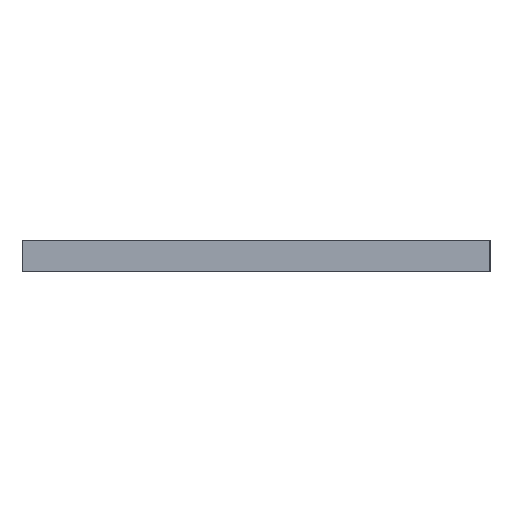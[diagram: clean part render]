
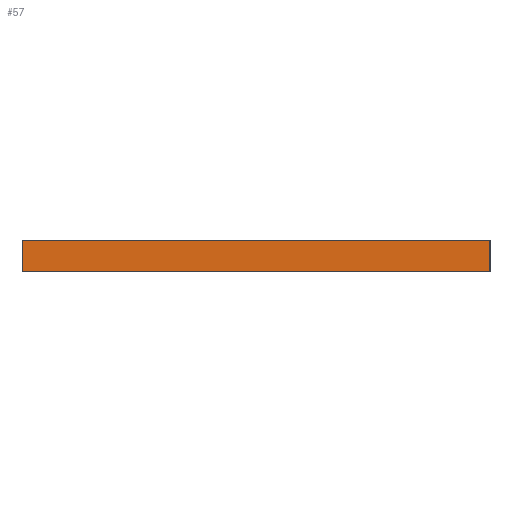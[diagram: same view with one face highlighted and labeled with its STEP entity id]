
A CAD part, left-side view. The second image highlights one B-rep face of the part: STEP entity #57.
In plain terms, the highlighted planar face has unit normal (-1, 0, 0).
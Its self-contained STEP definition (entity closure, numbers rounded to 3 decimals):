
#20 = ORIENTED_EDGE ( 'NONE', *, *, #86, .F. ) ;
#44 = VECTOR ( 'NONE', #568, 1000. ) ;
#50 = CARTESIAN_POINT ( 'NONE',  ( -59.091, -18.5, 0. ) ) ;
#57 = ADVANCED_FACE ( 'NONE', ( #85 ), #624, .F. ) ;
#85 = FACE_OUTER_BOUND ( 'NONE', #95, .T. ) ;
#86 = EDGE_CURVE ( 'NONE', #321, #161, #290, .T. ) ;
#87 = CARTESIAN_POINT ( 'NONE',  ( -59.091, 18.5, 2.5 ) ) ;
#92 = CARTESIAN_POINT ( 'NONE',  ( -59.091, 18.5, 2.5 ) ) ;
#95 = EDGE_LOOP ( 'NONE', ( #686, #20, #775, #526 ) ) ;
#161 = VERTEX_POINT ( 'NONE', #50 ) ;
#167 = AXIS2_PLACEMENT_3D ( 'NONE', #413, #651, #384 ) ;
#171 = VERTEX_POINT ( 'NONE', #679 ) ;
#182 = LINE ( 'NONE', #92, #44 ) ;
#191 = DIRECTION ( 'NONE',  ( 0., 0., -1. ) ) ;
#206 = EDGE_CURVE ( 'NONE', #171, #161, #496, .T. ) ;
#215 = CARTESIAN_POINT ( 'NONE',  ( -59.091, 18.5, 2.5 ) ) ;
#247 = VECTOR ( 'NONE', #330, 1000. ) ;
#279 = CARTESIAN_POINT ( 'NONE',  ( -59.091, -18.5, 2.5 ) ) ;
#290 = LINE ( 'NONE', #563, #795 ) ;
#321 = VERTEX_POINT ( 'NONE', #279 ) ;
#328 = VECTOR ( 'NONE', #581, 1000. ) ;
#330 = DIRECTION ( 'NONE',  ( 0., 0., -1. ) ) ;
#332 = VERTEX_POINT ( 'NONE', #87 ) ;
#384 = DIRECTION ( 'NONE',  ( 0., 1., 0. ) ) ;
#413 = CARTESIAN_POINT ( 'NONE',  ( -59.091, 18.5, 2.5 ) ) ;
#452 = CARTESIAN_POINT ( 'NONE',  ( -59.091, 18.5, 0. ) ) ;
#456 = LINE ( 'NONE', #215, #247 ) ;
#496 = LINE ( 'NONE', #452, #328 ) ;
#526 = ORIENTED_EDGE ( 'NONE', *, *, #693, .T. ) ;
#563 = CARTESIAN_POINT ( 'NONE',  ( -59.091, -18.5, 2.5 ) ) ;
#568 = DIRECTION ( 'NONE',  ( 0., -1., 0. ) ) ;
#581 = DIRECTION ( 'NONE',  ( 0., -1., 0. ) ) ;
#615 = EDGE_CURVE ( 'NONE', #332, #321, #182, .T. ) ;
#624 = PLANE ( 'NONE',  #167 ) ;
#651 = DIRECTION ( 'NONE',  ( 1., 0., 0. ) ) ;
#679 = CARTESIAN_POINT ( 'NONE',  ( -59.091, 18.5, 0. ) ) ;
#686 = ORIENTED_EDGE ( 'NONE', *, *, #206, .T. ) ;
#693 = EDGE_CURVE ( 'NONE', #332, #171, #456, .T. ) ;
#775 = ORIENTED_EDGE ( 'NONE', *, *, #615, .F. ) ;
#795 = VECTOR ( 'NONE', #191, 1000. ) ;
